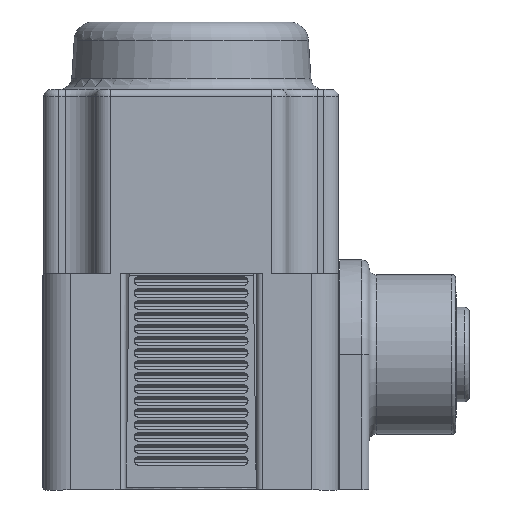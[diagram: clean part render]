
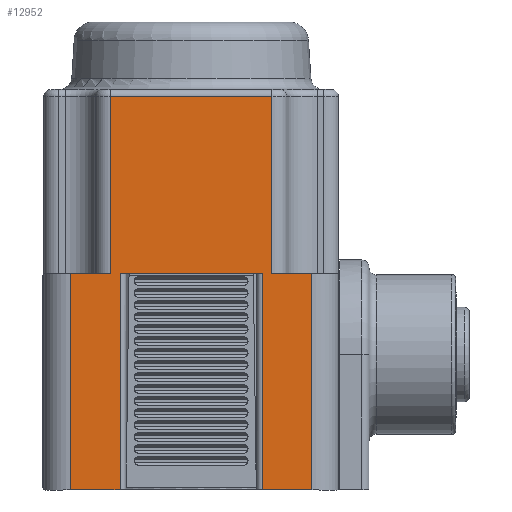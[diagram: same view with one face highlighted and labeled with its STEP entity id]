
A CAD part, left-side view. The second image highlights one B-rep face of the part: STEP entity #12952.
In plain terms, the highlighted planar face has unit normal (-1, 0, 0).
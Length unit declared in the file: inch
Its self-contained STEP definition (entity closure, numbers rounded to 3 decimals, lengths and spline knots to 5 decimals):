
#1438=LINE('',#21782,#2341);
#1451=LINE('',#21852,#2354);
#1574=LINE('',#23440,#2477);
#1592=LINE('',#23500,#2495);
#1593=LINE('',#23504,#2496);
#1596=LINE('',#23523,#2499);
#1609=LINE('',#23592,#2512);
#1610=LINE('',#23596,#2513);
#1611=LINE('',#23597,#2514);
#1612=LINE('',#23599,#2515);
#1613=LINE('',#23601,#2516);
#1614=LINE('',#23602,#2517);
#2341=VECTOR('',#17471,0.3937);
#2354=VECTOR('',#17554,0.3937);
#2477=VECTOR('',#17875,0.3937);
#2495=VECTOR('',#17947,0.3937);
#2496=VECTOR('',#17952,0.3937);
#2499=VECTOR('',#17973,0.3937);
#2512=VECTOR('',#18064,0.3937);
#2513=VECTOR('',#18069,0.3937);
#2514=VECTOR('',#18070,0.3937);
#2515=VECTOR('',#18071,0.3937);
#2516=VECTOR('',#18072,0.3937);
#2517=VECTOR('',#18073,0.3937);
#3290=FACE_OUTER_BOUND('',#4074,.T.);
#4074=EDGE_LOOP('',(#11056,#11057,#11058,#11059,#11060,#11061,#11062,#11063,
#11064,#11065,#11066,#11067));
#5577=VERTEX_POINT('',#21774);
#5579=VERTEX_POINT('',#21780);
#5601=VERTEX_POINT('',#21850);
#5737=VERTEX_POINT('',#23437);
#5738=VERTEX_POINT('',#23439);
#5753=VERTEX_POINT('',#23499);
#5754=VERTEX_POINT('',#23503);
#5761=VERTEX_POINT('',#23521);
#5778=VERTEX_POINT('',#23591);
#5779=VERTEX_POINT('',#23595);
#5780=VERTEX_POINT('',#23598);
#5781=VERTEX_POINT('',#23600);
#7239=EDGE_CURVE('',#5579,#5577,#1438,.T.);
#7275=EDGE_CURVE('',#5601,#5579,#1451,.T.);
#7484=EDGE_CURVE('',#5738,#5737,#1574,.T.);
#7514=EDGE_CURVE('',#5753,#5577,#1592,.T.);
#7516=EDGE_CURVE('',#5754,#5753,#1593,.T.);
#7526=EDGE_CURVE('',#5601,#5761,#1596,.T.);
#7560=EDGE_CURVE('',#5778,#5738,#1609,.T.);
#7562=EDGE_CURVE('',#5779,#5761,#1610,.T.);
#7563=EDGE_CURVE('',#5778,#5779,#1611,.T.);
#7564=EDGE_CURVE('',#5780,#5737,#1612,.T.);
#7565=EDGE_CURVE('',#5780,#5781,#1613,.T.);
#7566=EDGE_CURVE('',#5781,#5754,#1614,.T.);
#11056=ORIENTED_EDGE('',*,*,#7239,.F.);
#11057=ORIENTED_EDGE('',*,*,#7275,.F.);
#11058=ORIENTED_EDGE('',*,*,#7526,.T.);
#11059=ORIENTED_EDGE('',*,*,#7562,.F.);
#11060=ORIENTED_EDGE('',*,*,#7563,.F.);
#11061=ORIENTED_EDGE('',*,*,#7560,.T.);
#11062=ORIENTED_EDGE('',*,*,#7484,.T.);
#11063=ORIENTED_EDGE('',*,*,#7564,.F.);
#11064=ORIENTED_EDGE('',*,*,#7565,.T.);
#11065=ORIENTED_EDGE('',*,*,#7566,.T.);
#11066=ORIENTED_EDGE('',*,*,#7516,.T.);
#11067=ORIENTED_EDGE('',*,*,#7514,.T.);
#11572=PLANE('',#14373);
#12952=ADVANCED_FACE('',(#3290),#11572,.T.);
#14373=AXIS2_PLACEMENT_3D('',#23594,#18067,#18068);
#17471=DIRECTION('',(0.,-1.,0.));
#17554=DIRECTION('',(0.,0.,1.));
#17875=DIRECTION('',(0.,-1.,0.));
#17947=DIRECTION('',(0.,0.,1.));
#17952=DIRECTION('',(0.,1.,0.));
#17973=DIRECTION('',(0.,1.,0.));
#18064=DIRECTION('',(0.,0.,1.));
#18067=DIRECTION('center_axis',(-1.,0.,0.));
#18068=DIRECTION('ref_axis',(0.,0.,1.));
#18069=DIRECTION('',(0.,0.,1.));
#18070=DIRECTION('',(0.,1.,0.));
#18071=DIRECTION('',(0.,0.,1.));
#18072=DIRECTION('',(0.,-1.,0.));
#18073=DIRECTION('',(0.,0.,1.));
#21774=CARTESIAN_POINT('',(-0.93132,-0.38216,0.65855));
#21780=CARTESIAN_POINT('',(-0.93132,0.28584,0.65855));
#21782=CARTESIAN_POINT('',(-0.93132,0.28584,0.65855));
#21850=CARTESIAN_POINT('',(-0.93132,0.28584,-0.07345));
#21852=CARTESIAN_POINT('',(-0.93132,0.28584,-0.07345));
#23437=CARTESIAN_POINT('',(-0.93132,-0.34216,-0.07345));
#23439=CARTESIAN_POINT('',(-0.93132,0.24584,-0.07345));
#23440=CARTESIAN_POINT('',(-0.93132,0.24584,-0.07345));
#23499=CARTESIAN_POINT('',(-0.93132,-0.38216,-0.07345));
#23500=CARTESIAN_POINT('',(-0.93132,-0.38216,-0.07345));
#23503=CARTESIAN_POINT('',(-0.93132,-0.54716,-0.07345));
#23504=CARTESIAN_POINT('',(-0.93132,-0.54716,-0.07345));
#23521=CARTESIAN_POINT('',(-0.93132,0.45084,-0.07345));
#23523=CARTESIAN_POINT('',(-0.93132,0.28584,-0.07345));
#23591=CARTESIAN_POINT('',(-0.93132,0.24584,-0.96745));
#23592=CARTESIAN_POINT('',(-0.93132,0.24584,-0.96745));
#23594=CARTESIAN_POINT('Origin',(-0.93132,-0.54756,
-0.15445));
#23595=CARTESIAN_POINT('',(-0.93132,0.45084,-0.96745));
#23596=CARTESIAN_POINT('',(-0.93132,0.45084,-0.96745));
#23597=CARTESIAN_POINT('',(-0.93132,0.24584,-0.96745));
#23598=CARTESIAN_POINT('',(-0.93132,-0.34216,-0.96745));
#23599=CARTESIAN_POINT('',(-0.93132,-0.34216,-0.96745));
#23600=CARTESIAN_POINT('',(-0.93132,-0.54716,-0.96745));
#23601=CARTESIAN_POINT('',(-0.93132,-0.34216,-0.96745));
#23602=CARTESIAN_POINT('',(-0.93132,-0.54716,-0.96745));
